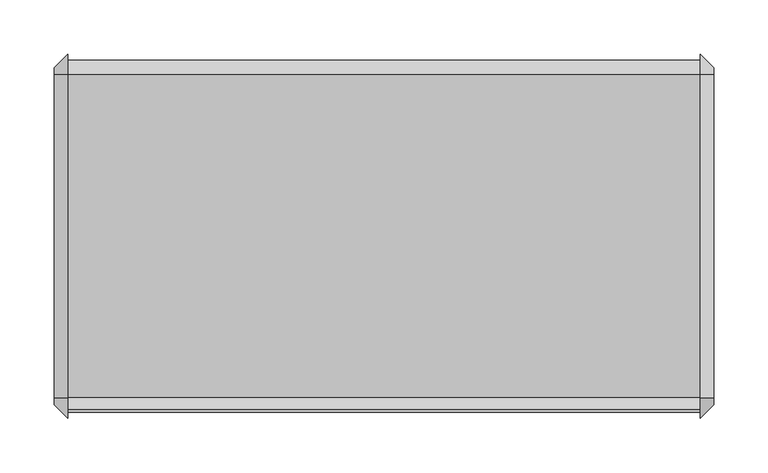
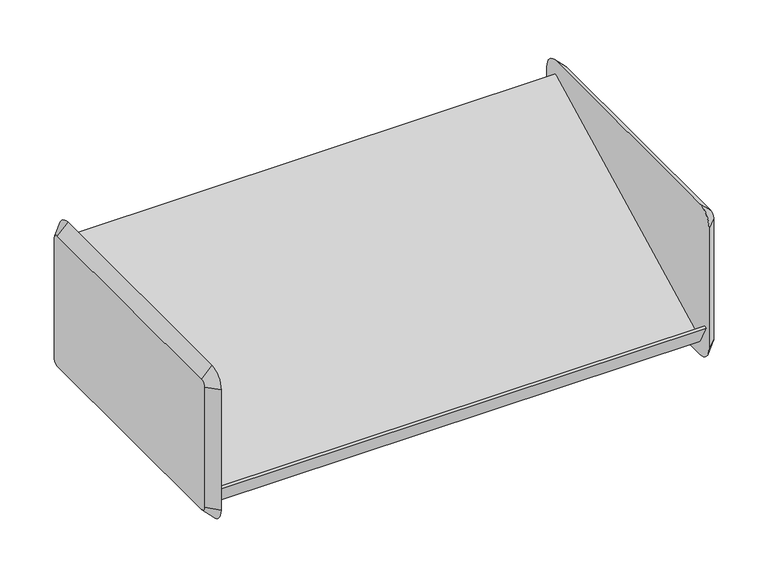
"""IFC4 building model written with IfcOpenShell, lengths in millimetres: furniture geometry."""

from ifc_helpers import new_model, si_unit, frame, origin, place, context, project, spatial, polyline, circle_curve, outline, extrude, source, transform, mapped, element, save
from ifc_brep_helpers import plane_surface, revolved_surface, advanced_brep


def furniture_5b942465(model_context):
    return source(origin(), model_context, "Body", "SolidModel", [
        advanced_brep(
        [(180.8579955, 161.925, 1511.3), (180.8579955, -136.525, 1511.3), (180.8579955, -142.875, 1504.95), (180.8579955, -142.875, 1352.55), (180.8579955, -136.525, 1346.2), (180.8579955, 161.925, 1346.2), (180.8579955, 168.275, 1352.55), (180.8579955, 168.275, 1504.95), (168.1579955, 161.925, 1524.0), (168.1579955, 180.975, 1504.95), (168.1579955, 180.975, 1352.55), (168.1579955, 161.925, 1333.5), (168.1579955, -136.525, 1333.5), (168.1579955, -155.575, 1352.55), (168.1579955, -155.575, 1504.95), (168.1579955, -136.525, 1524.0)],
        [
            (0, 1),
            (1, 2, circle_curve(frame((180.8579955, -136.525, 1504.95), z_axis=(1.0, 2.075672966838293e-12, -2.1742607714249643e-12), x_axis=(2.1742640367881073e-12, 0.0, 1.0)), 6.35)),
            (2, 3),
            (3, 4, circle_curve(frame((180.8579955, -136.525, 1352.55), z_axis=(1.0, 2.059685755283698e-12, 2.0463630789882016e-12), x_axis=(2.059647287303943e-12, -1.0, 0.0)), 6.35)),
            (4, 5),
            (5, 6, circle_curve(frame((180.8579955, 161.925, 1352.55), z_axis=(1.0, 2.088995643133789e-12, -2.1103119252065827e-12), x_axis=(-2.1103612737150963e-12, 0.0, -1.0)), 6.35)),
            (6, 7),
            (7, 0, circle_curve(frame((180.8579955, 161.925, 1504.95), z_axis=(1.0, 2.0783375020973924e-12, 1.9824142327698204e-12), x_axis=(-2.0783313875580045e-12, 1.0, 0.0)), 6.35)),
            (8, 9, circle_curve(frame((168.1579955, 161.925, 1504.95), z_axis=(-1.0, -2.0783375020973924e-12, -1.9824142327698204e-12), x_axis=(-2.0783313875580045e-12, 1.0, 0.0)), 19.05)),
            (9, 10),
            (10, 11, circle_curve(frame((168.1579955, 161.925, 1352.55), z_axis=(-1.0, -2.088995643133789e-12, 2.1103119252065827e-12), x_axis=(-2.1103612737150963e-12, 0.0, -1.0)), 19.05)),
            (11, 12),
            (12, 13, circle_curve(frame((168.1579955, -136.525, 1352.55), z_axis=(-1.0, -2.059685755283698e-12, -2.0463630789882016e-12), x_axis=(2.059647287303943e-12, -1.0, 0.0)), 19.05)),
            (13, 14),
            (14, 15, circle_curve(frame((168.1579955, -136.525, 1504.95), z_axis=(-1.0, -2.075672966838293e-12, 2.1742607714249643e-12), x_axis=(2.1742640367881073e-12, 0.0, 1.0)), 19.05)),
            (15, 8),
            (15, 1),
            (0, 8),
            (14, 2),
            (13, 3),
            (12, 4),
            (11, 5),
            (10, 6),
            (9, 7),
        ],
        [
            plane_surface(frame((180.8579955, 12.7, 1428.75), z_axis=(1.0, 0.0, 0.0), x_axis=(0.0, -1.0, 0.0))),
            plane_surface(frame((168.1579955, 12.7, 1428.75), z_axis=(-1.0, 0.0, 0.0), x_axis=(0.0, -1.0, 0.0))),
            plane_surface(frame((168.1579955, 12.7, 1524.0), z_axis=(0.7071067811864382, 0.0, 0.7071067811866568), x_axis=(0.0, -1.0, 0.0))),
            revolved_surface(polyline([(180.8579955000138, -136.525, 1511.2999999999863), (168.1579955, -136.525, 1524.0)]), (187.2079955, -136.525, 1504.95), (-1.0, -2.075672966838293e-12, 2.1742607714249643e-12)),
            plane_surface(frame((168.1579955, -155.575, 1428.75), z_axis=(0.707106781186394, -0.7071067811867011, 0.0), x_axis=(0.0, 0.0, -1.0))),
            revolved_surface(polyline([(180.85799550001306, -142.87499999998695, 1352.55), (168.1579955, -155.575, 1352.55)]), (187.2079955, -136.525, 1352.55), (-1.0, -2.059685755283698e-12, -2.0463630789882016e-12)),
            plane_surface(frame((168.1579955, 12.7, 1333.5), z_axis=(0.7071067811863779, 0.0, -0.7071067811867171), x_axis=(0.0, 1.0, 0.0))),
            revolved_surface(polyline([(180.8579955, 161.925, 1346.2), (168.15799549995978, 161.925, 1333.4999999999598)]), (187.2079955, 161.925, 1352.55), (-1.0, -2.088995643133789e-12, 2.1103119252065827e-12)),
            plane_surface(frame((168.1579955, 180.975, 1428.75), z_axis=(0.707106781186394, 0.7071067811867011, 0.0), x_axis=(0.0, 0.0, 1.0))),
            revolved_surface(polyline([(180.8579955, 168.27500000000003, 1504.95), (168.1579954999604, 180.97500000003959, 1504.95)]), (187.2079955, 161.925, 1504.95), (-1.0, -2.0783375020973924e-12, -1.9824142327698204e-12)),
        ],
        [
            (0, [[1, 2, 3, 4, 5, 6, 7, 8]]),
            (1, [[9, 10, 11, 12, 13, 14, 15, 16]]),
            (2, [[-16, 17, -1, 18]]),
            (3, [[-15, 19, -2, -17]]),
            (4, [[-14, 20, -3, -19]]),
            (5, [[-13, 21, -4, -20]]),
            (6, [[-12, 22, -5, -21]]),
            (7, [[-11, 23, -6, -22]]),
            (8, [[-10, 24, -7, -23]]),
            (9, [[-9, -18, -8, -24]]),
        ],
    ),
        advanced_brep(
        [(-428.7420045, -136.525, 1511.3), (-428.7420045, 161.925, 1511.3), (-428.7420045, 168.275, 1504.95), (-428.7420045, 168.275, 1352.55), (-428.7420045, 161.925, 1346.2), (-428.7420045, -136.525, 1346.2), (-428.7420045, -142.875, 1352.55), (-428.7420045, -142.875, 1504.95), (-416.0420045, -136.525, 1524.0), (-416.0420045, -155.575, 1504.95), (-416.0420045, -155.575, 1352.55), (-416.0420045, -136.525, 1333.5), (-416.0420045, 161.925, 1333.5), (-416.0420045, 180.975, 1352.55), (-416.0420045, 180.975, 1504.95), (-416.0420045, 161.925, 1524.0)],
        [
            (0, 1),
            (1, 2, circle_curve(frame((-428.7420045, 161.925, 1504.95), z_axis=(-1.0, 0.0, 0.0), x_axis=(0.0, 0.0, 1.0)), 6.35)),
            (2, 3),
            (3, 4, circle_curve(frame((-428.7420045, 161.925, 1352.55), z_axis=(-1.0, 0.0, 0.0), x_axis=(0.0, 1.0, 0.0)), 6.35)),
            (4, 5),
            (5, 6, circle_curve(frame((-428.7420045, -136.525, 1352.55), z_axis=(-1.0, 0.0, 0.0), x_axis=(0.0, 0.0, -1.0)), 6.35)),
            (6, 7),
            (7, 0, circle_curve(frame((-428.7420045, -136.525, 1504.95), z_axis=(-1.0, 0.0, 0.0), x_axis=(0.0, -1.0, 0.0)), 6.35)),
            (8, 9, circle_curve(frame((-416.0420045, -136.525, 1504.95), z_axis=(1.0, 0.0, 0.0), x_axis=(0.0, -1.0, 0.0)), 19.05)),
            (9, 10),
            (10, 11, circle_curve(frame((-416.0420045, -136.525, 1352.55), z_axis=(1.0, 0.0, 0.0), x_axis=(0.0, 0.0, -1.0)), 19.05)),
            (11, 12),
            (12, 13, circle_curve(frame((-416.0420045, 161.925, 1352.55), z_axis=(1.0, 0.0, 0.0), x_axis=(0.0, 1.0, 0.0)), 19.05)),
            (13, 14),
            (14, 15, circle_curve(frame((-416.0420045, 161.925, 1504.95), z_axis=(1.0, 0.0, 0.0), x_axis=(0.0, 0.0, 1.0)), 19.05)),
            (15, 8),
            (15, 1),
            (0, 8),
            (14, 2),
            (13, 3),
            (12, 4),
            (11, 5),
            (10, 6),
            (9, 7),
        ],
        [
            plane_surface(frame((-428.7420045, 12.7, 1428.75), z_axis=(-1.0, 0.0, 0.0), x_axis=(0.0, -1.0, 0.0))),
            plane_surface(frame((-416.0420045, 12.7, 1428.75), z_axis=(1.0, 0.0, 0.0), x_axis=(0.0, -1.0, 0.0))),
            plane_surface(frame((-416.0420045, 12.7, 1524.0), z_axis=(-0.7071067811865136, 0.0, 0.7071067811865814), x_axis=(0.0, 1.0, 0.0))),
            revolved_surface(polyline([(-428.7420045, 161.925, 1511.3), (-416.0420045, 161.925, 1524.0)]), (-435.0920045, 161.925, 1504.95), (1.0, 0.0, 0.0)),
            plane_surface(frame((-416.0420045, 180.975, 1428.75), z_axis=(-0.7071067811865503, 0.7071067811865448, 0.0), x_axis=(0.0, 0.0, -1.0))),
            revolved_surface(polyline([(-428.7420045, 168.27499999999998, 1352.55), (-416.0420045, 180.975, 1352.55)]), (-435.0920045, 161.925, 1352.55), (1.0, 0.0, 0.0)),
            plane_surface(frame((-416.0420045, 12.7, 1333.5), z_axis=(-0.707106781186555, 0.0, -0.70710678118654), x_axis=(0.0, -1.0, 0.0))),
            revolved_surface(polyline([(-428.7420045, -136.525, 1346.2), (-416.0420045, -136.525, 1333.5)]), (-435.0920045, -136.525, 1352.55), (1.0, 0.0, 0.0)),
            plane_surface(frame((-416.0420045, -155.575, 1428.75), z_axis=(-0.7071067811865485, -0.7071067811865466, 0.0), x_axis=(0.0, 0.0, 1.0))),
            revolved_surface(polyline([(-428.7420045, -142.87499999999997, 1504.95), (-416.0420045, -155.575, 1504.95)]), (-435.0920045, -136.525, 1504.95), (1.0, 0.0, 0.0)),
        ],
        [
            (0, [[1, 2, 3, 4, 5, 6, 7, 8]]),
            (1, [[9, 10, 11, 12, 13, 14, 15, 16]]),
            (2, [[-16, 17, -1, 18]]),
            (3, [[-15, 19, -2, -17]]),
            (4, [[-14, 20, -3, -19]]),
            (5, [[-13, 21, -4, -20]]),
            (6, [[-12, 22, -5, -21]]),
            (7, [[-11, 23, -6, -22]]),
            (8, [[-10, 24, -7, -23]]),
            (9, [[-9, -18, -8, -24]]),
        ],
    ),
        extrude(outline(polyline([(-137.2094993, 1350.4179666), (-149.845093, 1374.8467844), (-147.0173828, 1376.2907216), (-135.8404765, 1354.6820334), (162.5893131, 1507.0717194), (175.2453599, 1483.4470972), (172.4171401, 1482.0028998), (161.2606869, 1502.8282806), (-137.2094993, 1350.4179666)])), frame((-416.0420045, 0.0, 0.0), z_axis=(1.0, 0.0, 0.0), x_axis=(0.0, 1.0, 0.0)), (0.0, 0.0, 1.0), 584.2),
    ])


if __name__ == "__main__":
    model = new_model("IFC4")
    model_context = context("Model", 3, world=origin())
    ifc_project = project(units=[si_unit("LENGTHUNIT", "METRE", prefix="MILLI")], contexts=[model_context])
    site = spatial("IfcSite", under=ifc_project)
    building = spatial("IfcBuilding", under=site)
    placement = place(None, origin())
    furniture_shape = furniture_5b942465(model_context)
    element("IfcFurniture", 1, ObjectType="HermanMiller_ActionOffice_A3220_B-StyleStorageDisplay : Display 13\"D x 24\"W", at=placement, inside=building, context=model_context, shape_type="MappedRepresentation", body=[
        mapped(furniture_shape, transform((0.0, 0.0, 0.0), x_axis=(1.0, 0.0, 0.0), y_axis=(0.0, 1.0, 0.0), z_axis=(0.0, 0.0, 1.0))),
    ])
    save(model, "model.ifc")
